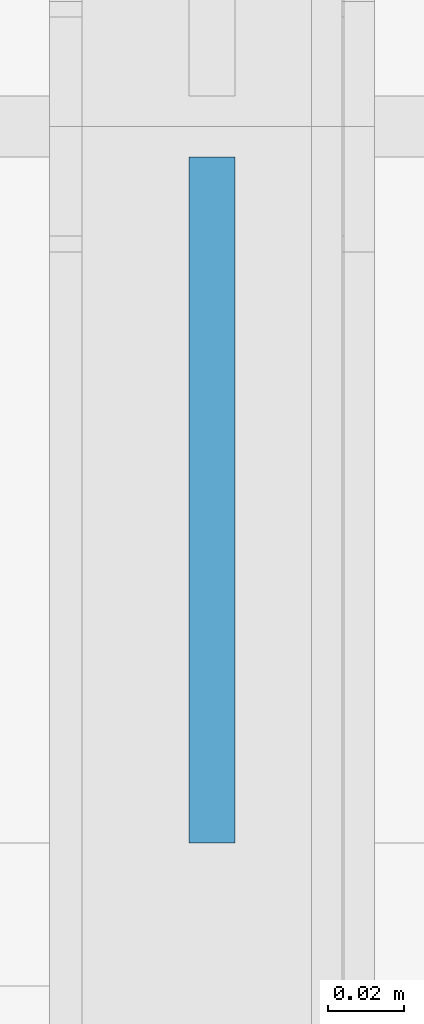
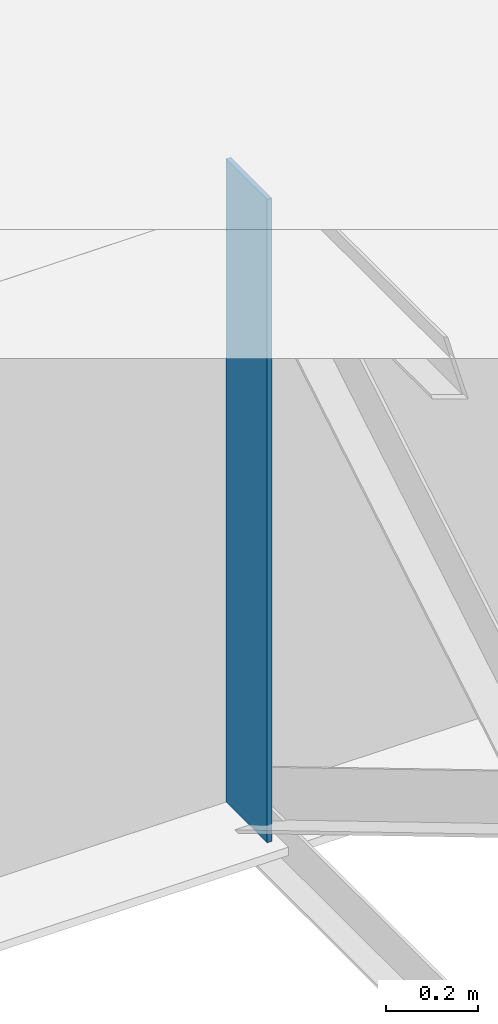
# One storey, part 6 of 10: 1 plate.
"""IFC4 building model written with IfcOpenShell, lengths in metres."""

from ifc_helpers import new_model, si_unit, frame, origin, origin_with_axes, origin_2d_with_axis, place, context, subcontext, project, spatial, rectangle, extrude, element, save


model = new_model("IFC4")

# Units and contexts
model_context = context("Model", 3, precision=1e-05, world=origin())
body_context = subcontext(model_context, "Body", "Model", "MODEL_VIEW")
ifc_project = project(units=[si_unit("LENGTHUNIT", "METRE"), si_unit("AREAUNIT", "SQUARE_METRE"), si_unit("VOLUMEUNIT", "CUBIC_METRE"), si_unit("PLANEANGLEUNIT", "RADIAN")], contexts=[model_context])

# Site, building, storey
site_placement = place(None, origin_with_axes())
site = spatial("IfcSite", under=ifc_project, at=site_placement, Name="Default Site")
building_placement = place(site_placement, origin_with_axes())
building = spatial("IfcBuilding", under=site, at=building_placement, Name="Bridge Structure")
storey_placement = place(building_placement, origin_with_axes())
storey = spatial("IfcBuildingStorey", under=building, at=storey_placement, Name="Superstructure")

# Plate
plate_placement = place(storey_placement, frame((15.0, -0.09775, -0.8575), z_axis=(0.0, 0.0, 1.0), x_axis=(1.0, 0.0, 0.0)))
element("IfcPlate", 1, at=plate_placement, inside=storey, Name="Intermediate Stiffener 2", context=body_context, shape_type="SweptSolid", body=[
    extrude(rectangle(XDim=0.012, YDim=0.1795, at=origin_2d_with_axis()), origin_with_axes(), (0.0, 0.0, 1.0), 1.715),
])

save(model, "model.ifc")
